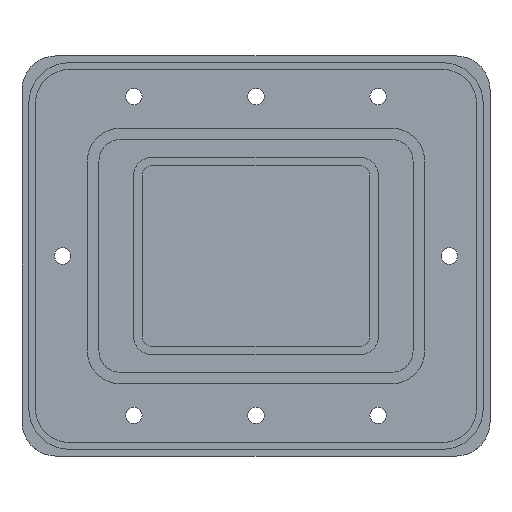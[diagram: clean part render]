
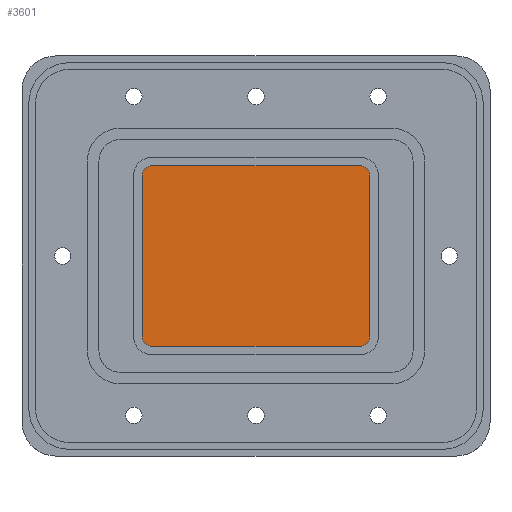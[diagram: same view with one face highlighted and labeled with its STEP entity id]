
A CAD part, top view. The second image highlights one B-rep face of the part: STEP entity #3601.
In plain terms, the highlighted planar face has unit normal (0, 0, 1).
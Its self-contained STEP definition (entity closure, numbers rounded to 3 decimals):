
#1565=CARTESIAN_POINT('Axis2P3D Location',(0.,0.,0.)) ;
#3408=CARTESIAN_POINT('Vertex',(-30.7,-26.6,0.)) ;
#3411=CARTESIAN_POINT('Axis2P3D Location',(-30.7,-23.7,0.)) ;
#3415=CARTESIAN_POINT('Vertex',(-33.6,-23.7,0.)) ;
#3435=CARTESIAN_POINT('Line Origine',(-33.6,0.,0.)) ;
#3439=CARTESIAN_POINT('Vertex',(-33.6,23.7,0.)) ;
#3459=CARTESIAN_POINT('Axis2P3D Location',(-30.7,23.7,0.)) ;
#3463=CARTESIAN_POINT('Vertex',(-30.7,26.6,0.)) ;
#3483=CARTESIAN_POINT('Line Origine',(0.,26.6,0.)) ;
#3487=CARTESIAN_POINT('Vertex',(30.7,26.6,0.)) ;
#3507=CARTESIAN_POINT('Axis2P3D Location',(30.7,23.7,0.)) ;
#3511=CARTESIAN_POINT('Vertex',(33.6,23.7,0.)) ;
#3531=CARTESIAN_POINT('Line Origine',(33.6,0.,0.)) ;
#3535=CARTESIAN_POINT('Vertex',(33.6,-23.7,0.)) ;
#3555=CARTESIAN_POINT('Axis2P3D Location',(30.7,-23.7,0.)) ;
#3559=CARTESIAN_POINT('Vertex',(30.7,-26.6,0.)) ;
#3579=CARTESIAN_POINT('Line Origine',(0.,-26.6,0.)) ;
#3437=VECTOR('Line Direction',#3436,1.) ;
#3485=VECTOR('Line Direction',#3484,1.) ;
#3533=VECTOR('Line Direction',#3532,1.) ;
#3581=VECTOR('Line Direction',#3580,1.) ;
#1566=DIRECTION('Axis2P3D Direction',(0.,0.,1.)) ;
#1567=DIRECTION('Axis2P3D XDirection',(1.,0.,0.)) ;
#3412=DIRECTION('Axis2P3D Direction',(0.,0.,1.)) ;
#3436=DIRECTION('Vector Direction',(0.,-1.,0.)) ;
#3460=DIRECTION('Axis2P3D Direction',(0.,0.,1.)) ;
#3484=DIRECTION('Vector Direction',(-1.,0.,0.)) ;
#3508=DIRECTION('Axis2P3D Direction',(0.,0.,1.)) ;
#3532=DIRECTION('Vector Direction',(0.,1.,0.)) ;
#3556=DIRECTION('Axis2P3D Direction',(0.,0.,1.)) ;
#3580=DIRECTION('Vector Direction',(1.,0.,0.)) ;
#1568=AXIS2_PLACEMENT_3D('Plane Axis2P3D',#1565,#1566,#1567) ;
#3413=AXIS2_PLACEMENT_3D('Circle Axis2P3D',#3411,#3412,$) ;
#3461=AXIS2_PLACEMENT_3D('Circle Axis2P3D',#3459,#3460,$) ;
#3509=AXIS2_PLACEMENT_3D('Circle Axis2P3D',#3507,#3508,$) ;
#3557=AXIS2_PLACEMENT_3D('Circle Axis2P3D',#3555,#3556,$) ;
#3438=LINE('Line',#3435,#3437) ;
#3486=LINE('Line',#3483,#3485) ;
#3534=LINE('Line',#3531,#3533) ;
#3582=LINE('Line',#3579,#3581) ;
#3414=CIRCLE('generated circle',#3413,2.9) ;
#3462=CIRCLE('generated circle',#3461,2.9) ;
#3510=CIRCLE('generated circle',#3509,2.9) ;
#3558=CIRCLE('generated circle',#3557,2.9) ;
#1569=PLANE('',#1568) ;
#3417=EDGE_CURVE('',#3416,#3409,#3414,.T.) ;
#3441=EDGE_CURVE('',#3440,#3416,#3438,.T.) ;
#3465=EDGE_CURVE('',#3464,#3440,#3462,.T.) ;
#3489=EDGE_CURVE('',#3488,#3464,#3486,.T.) ;
#3513=EDGE_CURVE('',#3512,#3488,#3510,.T.) ;
#3537=EDGE_CURVE('',#3536,#3512,#3534,.T.) ;
#3561=EDGE_CURVE('',#3560,#3536,#3558,.T.) ;
#3583=EDGE_CURVE('',#3409,#3560,#3582,.T.) ;
#3592=ORIENTED_EDGE('',*,*,#3561,.T.) ;
#3593=ORIENTED_EDGE('',*,*,#3537,.T.) ;
#3594=ORIENTED_EDGE('',*,*,#3513,.T.) ;
#3595=ORIENTED_EDGE('',*,*,#3489,.T.) ;
#3596=ORIENTED_EDGE('',*,*,#3465,.T.) ;
#3597=ORIENTED_EDGE('',*,*,#3441,.T.) ;
#3598=ORIENTED_EDGE('',*,*,#3417,.T.) ;
#3599=ORIENTED_EDGE('',*,*,#3583,.T.) ;
#3591=EDGE_LOOP('',(#3592,#3593,#3594,#3595,#3596,#3597,#3598,#3599)) ;
#3409=VERTEX_POINT('',#3408) ;
#3416=VERTEX_POINT('',#3415) ;
#3440=VERTEX_POINT('',#3439) ;
#3464=VERTEX_POINT('',#3463) ;
#3488=VERTEX_POINT('',#3487) ;
#3512=VERTEX_POINT('',#3511) ;
#3536=VERTEX_POINT('',#3535) ;
#3560=VERTEX_POINT('',#3559) ;
#3601=ADVANCED_FACE('BATTERY_COVER',(#3600),#1569,.T.) ;
#3600=FACE_OUTER_BOUND('',#3591,.T.) ;
